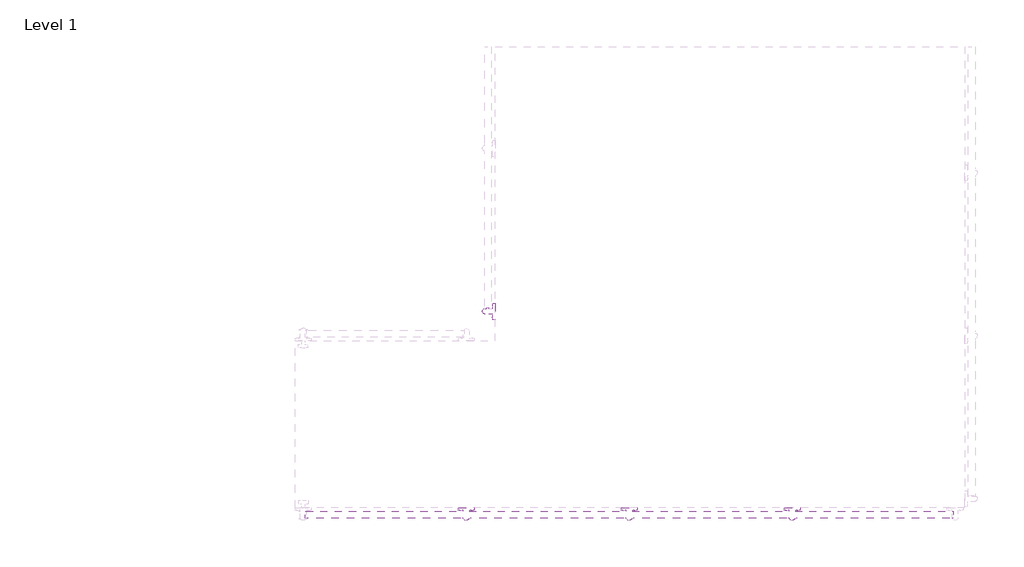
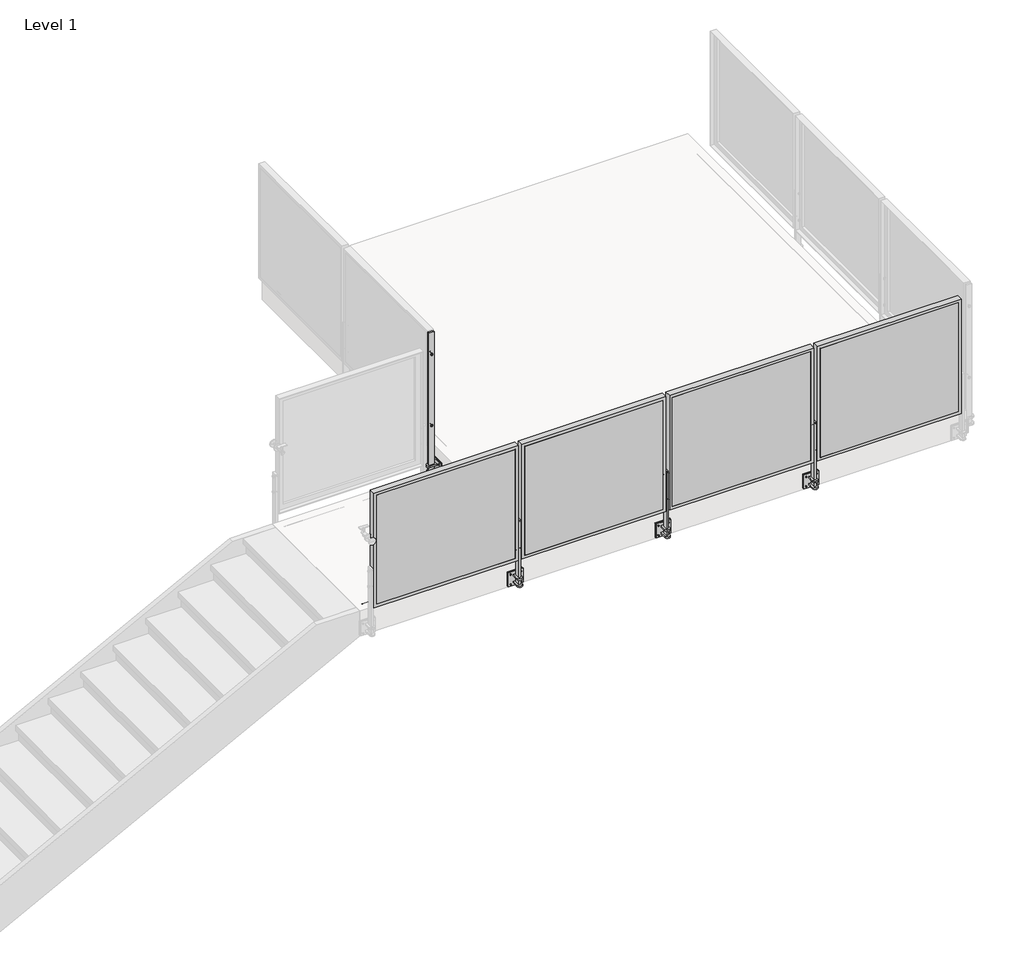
# One storey, part 19 of 37: 1 proxy, 1 railing.
"""IFC4 building model written with IfcOpenShell, lengths in millimetres."""

from ifc_helpers import new_model, si_unit, point, frame, frame_2d, origin, place, context, project, spatial, polyline, circle_curve, trimmed, segment, composite_curve, outline, extrude, faceted_brep, transform, mapped, element, save
from ifc_brep_helpers import plane_surface, cylinder_surface, advanced_brep
from components import baluster_end_post_viva_frame_top_mount_welded_fascia_mount_7cfda481

model = new_model("IFC4")

# Units and contexts
model_context = context("Model", 3, world=origin())
ifc_project = project(units=[si_unit("LENGTHUNIT", "METRE", prefix="MILLI")], contexts=[model_context])

# Site, building, storey
site = spatial("IfcSite", under=ifc_project)
building = spatial("IfcBuilding", under=site)
storey = spatial("IfcBuildingStorey", under=building, Name="Level 1", Elevation=0.0)

# Proxy
placement = place(None, origin())
baluster_end_post_viva_frame_top_mount_welded_fascia_mount_shape = baluster_end_post_viva_frame_top_mount_welded_fascia_mount_7cfda481(model_context)
element("IfcBuildingElementProxy", 1, Name="Baluster-End-Post-VIVA-FRAME-Top Mount : WELDED Fascia MOUNT FOLD_STRAIGHT", ObjectType="Baluster-End-Post-VIVA-FRAME-Top Mount : WELDED Fascia MOUNT FOLD_STRAIGHT", at=placement, inside=storey, context=model_context, shape_type="MappedRepresentation", body=[
    mapped(baluster_end_post_viva_frame_top_mount_welded_fascia_mount_shape, transform((-31448.8776401, -2383.0312725, 3047.492), x_axis=(0.0, -1.0, 0.0), y_axis=(1.0, 0.0, 0.0), z_axis=(0.0, 0.0, 1.0))),
])

# Railing
element("IfcRailing", 2, ObjectType="Metal-Panel-VIVA-FRAME-Fascia-Straight", at=placement, inside=storey, context=model_context, shape_type="SolidModel", body=[
    extrude(outline(composite_curve([segment(trimmed(circle_curve(frame_2d((-3841.0034112, 3047.746)), 0.254), [point((-3841.2574112, 3047.746))], [point((-3840.7494112, 3047.746))], False, "CARTESIAN"), True, "CONTINUOUS"), segment(trimmed(circle_curve(frame_2d((-3841.0034112, 3047.746)), 0.254), [point((-3840.7494112, 3047.746))], [point((-3841.2574112, 3047.746))], False, "CARTESIAN"), True, "CONTINUOUS")], self_intersect=False)), frame((-33016.1434339, 0.0, 0.0), z_axis=(1.0, 0.0, 0.0), x_axis=(0.0, 1.0, 0.0)), (0.0, 0.0, 1.0), 5080.0),
    extrude(outline(composite_curve([segment(trimmed(circle_curve(frame_2d((-3841.0034112, 3047.746)), 0.254), [point((-3841.2574112, 3047.746))], [point((-3840.7494112, 3047.746))], False, "CARTESIAN"), True, "CONTINUOUS"), segment(trimmed(circle_curve(frame_2d((-3841.0034112, 3047.746)), 0.254), [point((-3840.7494112, 3047.746))], [point((-3841.2574112, 3047.746))], False, "CARTESIAN"), True, "CONTINUOUS")], self_intersect=False)), frame((-33016.1434339, 0.0, 0.0), z_axis=(1.0, 0.0, 0.0), x_axis=(0.0, 1.0, 0.0)), (0.0, 0.0, 1.0), 5080.0),
    extrude(outline(polyline([(-29165.3169769, -3995.4622112), (-29165.3169769, -3992.4622112), (-27976.9698908, -3992.4622112), (-27976.9698908, -3995.4622112), (-29165.3169769, -3995.4622112)])), frame((0.0, 0.0, 3124.1959569), z_axis=(0.0, 0.0, 1.0), x_axis=(1.0, 0.0, 0.0)), (0.0, 0.0, 1.0), 990.5826861),
    faceted_brep([(-29190.7169769, -3995.4622112, 4140.1786431), (-29190.7169769, -3995.4622112, 3098.7959569), (-27951.5698908, -3995.4622112, 3098.7959569), (-27951.5698908, -3995.4622112, 4140.1786431), (-29165.3169769, -3995.4622112, 4114.7786431), (-27976.9698908, -3995.4622112, 4114.7786431), (-27976.9698908, -3995.4622112, 3124.1959569), (-29165.3169769, -3995.4622112, 3124.1959569), (-27976.9698908, -3992.4622112, 3124.1959569), (-29165.3169769, -3992.4622112, 3124.1959569), (-27976.9698908, -3992.4622112, 4114.7786431), (-29165.3169769, -3992.4622112, 4114.7786431), (-29184.7225769, -3941.6622112, 3104.7903569), (-29184.7225769, -3972.4724112, 3104.7903569), (-27957.5642908, -3972.4724112, 3104.7903569), (-27957.5642908, -3941.6622112, 3104.7903569), (-27957.5642908, -3972.4724112, 4134.1842431), (-27957.5642908, -3941.6622112, 4134.1842431), (-29184.7225769, -3941.6622112, 4134.1842431), (-29184.7225769, -3972.4724112, 4134.1842431), (-27951.5698908, -3941.6622112, 3098.7959569), (-29190.7169769, -3941.6622112, 3098.7959569), (-29190.7169769, -3941.6622112, 4140.1786431), (-27951.5698908, -3941.6622112, 4140.1786431), (-29139.9169769, -3992.4622112, 4089.3786431), (-28002.3698908, -3992.4622112, 4089.3786431), (-28002.3698908, -3992.4622112, 3149.5959569), (-29139.9169769, -3992.4622112, 3149.5959569), (-28002.3698908, -3972.4724112, 3149.5959569), (-28002.3698908, -3972.4724112, 4089.3786431), (-29139.9169769, -3972.4724112, 4089.3786431), (-29139.9169769, -3972.4724112, 3149.5959569)], [[[0, 1, 2, 3], [4, 5, 6, 7]], [[7, 6, 8, 9]], [[6, 5, 10, 8]], [[5, 4, 11, 10]], [[4, 7, 9, 11]], [[12, 13, 14, 15]], [[15, 14, 16, 17]], [[13, 12, 18, 19]], [[20, 21, 22, 23], [12, 15, 17, 18]], [[21, 1, 0, 22]], [[21, 20, 2, 1]], [[2, 20, 23, 3]], [[22, 0, 3, 23]], [[11, 9, 8, 10], [24, 25, 26, 27]], [[14, 13, 19, 16], [28, 29, 30, 31]], [[19, 18, 17, 16]], [[25, 24, 30, 29]], [[26, 25, 29, 28]], [[27, 26, 28, 31]], [[24, 27, 31, 30]]]),
    extrude(outline(composite_curve([segment(polyline([(-29228.3684339, -3989.8871179), (-29228.3684339, -3931.9862112), (-29183.9184339, -3931.9862112), (-29183.9184339, -3989.8871179)]), True, "CONTINUOUS"), segment(trimmed(circle_curve(frame_2d((-29206.1434339, -3989.8871179)), 22.225), [point((-29183.9184339, -3989.8871179))], [point((-29228.3684339, -3989.8871179))], False, "CARTESIAN"), True, "CONTINUOUS")], self_intersect=False)), frame((0.0, 0.0, 2859.0748), z_axis=(0.0, 0.0, 1.0), x_axis=(1.0, 0.0, 0.0)), (0.0, 0.0, 1.0), 12.7),
    extrude(outline(composite_curve([segment(polyline([(-29183.9184339, -3931.9862112), (-29183.9184339, -3989.8871179)]), True, "CONTINUOUS"), segment(trimmed(circle_curve(frame_2d((-29206.1434339, -3989.8871179)), 22.225), [point((-29183.9184339, -3989.8871179))], [point((-29228.3684339, -3989.8871179))], False, "CARTESIAN"), True, "CONTINUOUS"), segment(polyline([(-29228.3684339, -3989.8871179), (-29228.3684339, -3931.9862112), (-29183.9184339, -3931.9862112)]), True, "CONTINUOUS")], self_intersect=False)), frame((0.0, 0.0, 2921.0), z_axis=(0.0, 0.0, 1.0), x_axis=(1.0, 0.0, 0.0)), (0.0, 0.0, 1.0), 12.7),
    extrude(outline(composite_curve([segment(trimmed(circle_curve(frame_2d((2941.6502, -29161.698502)), 4.7752), [point((2941.6502, -29156.923302))], [point((2941.6502, -29166.473702))], False, "CARTESIAN"), True, "CONTINUOUS"), segment(trimmed(circle_curve(frame_2d((2941.6502, -29161.698502)), 4.7752), [point((2941.6502, -29166.473702))], [point((2941.6502, -29156.923302))], False, "CARTESIAN"), True, "CONTINUOUS")], self_intersect=False)), frame((0.0, -3936.7614112, 0.0), z_axis=(0.0, 1.0, 0.0), x_axis=(0.0, 0.0, 1.0)), (0.0, 0.0, 1.0), 14.3002),
    extrude(outline(composite_curve([segment(trimmed(circle_curve(frame_2d((2941.6502, -29250.5883657)), 4.7752), [point((2941.6502, -29245.8131657))], [point((2941.6502, -29255.3635657))], False, "CARTESIAN"), True, "CONTINUOUS"), segment(trimmed(circle_curve(frame_2d((2941.6502, -29250.5883657)), 4.7752), [point((2941.6502, -29255.3635657))], [point((2941.6502, -29245.8131657))], False, "CARTESIAN"), True, "CONTINUOUS")], self_intersect=False)), frame((0.0, -3936.7614112, 0.0), z_axis=(0.0, 1.0, 0.0), x_axis=(0.0, 0.0, 1.0)), (0.0, 0.0, 1.0), 14.3002),
    extrude(outline(composite_curve([segment(trimmed(circle_curve(frame_2d((2852.7502, -29250.5883657)), 4.7752), [point((2852.7502, -29245.8131657))], [point((2852.7502, -29255.3635657))], False, "CARTESIAN"), True, "CONTINUOUS"), segment(trimmed(circle_curve(frame_2d((2852.7502, -29250.5883657)), 4.7752), [point((2852.7502, -29255.3635657))], [point((2852.7502, -29245.8131657))], False, "CARTESIAN"), True, "CONTINUOUS")], self_intersect=False)), frame((0.0, -3936.7614112, 0.0), z_axis=(0.0, 1.0, 0.0), x_axis=(0.0, 0.0, 1.0)), (0.0, 0.0, 1.0), 14.3002),
    extrude(outline(composite_curve([segment(trimmed(circle_curve(frame_2d((2852.7502, -29161.698502)), 4.7752), [point((2852.7502, -29156.923302))], [point((2852.7502, -29166.473702))], False, "CARTESIAN"), True, "CONTINUOUS"), segment(trimmed(circle_curve(frame_2d((2852.7502, -29161.698502)), 4.7752), [point((2852.7502, -29166.473702))], [point((2852.7502, -29156.923302))], False, "CARTESIAN"), True, "CONTINUOUS")], self_intersect=False)), frame((0.0, -3936.7614112, 0.0), z_axis=(0.0, 1.0, 0.0), x_axis=(0.0, 0.0, 1.0)), (0.0, 0.0, 1.0), 14.3002),
    extrude(outline(polyline([(-29142.6454123, -3922.4612112), (-29269.6414554, -3922.4612112), (-29269.6414554, -3912.9362112), (-29142.6454123, -3912.9362112), (-29142.6454123, -3922.4612112)])), frame((0.0, 0.0, 2833.7002), z_axis=(0.0, 0.0, 1.0), x_axis=(1.0, 0.0, 0.0)), (0.0, 0.0, 1.0), 127.0),
    extrude(outline(polyline([(-29142.6454123, -3931.9862112), (-29269.6414554, -3931.9862112), (-29269.6414554, -3922.4612112), (-29142.6454123, -3922.4612112), (-29142.6454123, -3931.9862112)])), frame((0.0, 0.0, 2833.7002), z_axis=(0.0, 0.0, 1.0), x_axis=(1.0, 0.0, 0.0)), (0.0, 0.0, 1.0), 127.0),
    advanced_brep(
    [(-29232.3308339, -3970.0862112, 3178.1496), (-29232.3308339, -3970.0862112, 3197.2504), (-29232.3308339, -3970.0862112, 3187.7), (-29227.5556339, -3970.0862112, 3178.1496), (-29227.5556339, -3970.0862112, 3197.2504), (-29227.5556339, -3970.0862112, 3182.9248), (-29227.5556339, -3970.0862112, 3192.4752), (-29184.7312339, -3970.0862112, 3182.9248), (-29184.7312339, -3970.0862112, 3192.4752), (-29184.7312339, -3970.0862112, 3178.1496), (-29184.7312339, -3970.0862112, 3197.2504), (-29179.9560339, -3970.0862112, 3178.1496), (-29179.9560339, -3970.0862112, 3197.2504), (-29179.9560339, -3970.0862112, 3187.7)],
    [
        (0, 1, circle_curve(frame((-29232.3308339, -3970.0862112, 3187.7), z_axis=(-1.0, 0.0, 0.0), x_axis=(0.0, 0.0, 1.0)), 9.5504)),
        (1, 2),
        (2, 0),
        (1, 0, circle_curve(frame((-29232.3308339, -3970.0862112, 3187.7), z_axis=(-1.0, 0.0, 0.0), x_axis=(0.0, 0.0, 1.0)), 9.5504)),
        (3, 4, circle_curve(frame((-29227.5556339, -3970.0862112, 3187.7), z_axis=(-1.0, 0.0, 0.0), x_axis=(0.0, 0.0, 1.0)), 9.5504)),
        (4, 1),
        (0, 3),
        (4, 3, circle_curve(frame((-29227.5556339, -3970.0862112, 3187.7), z_axis=(-1.0, 0.0, 0.0), x_axis=(0.0, 0.0, 1.0)), 9.5504)),
        (5, 6, circle_curve(frame((-29227.5556339, -3970.0862112, 3187.7), z_axis=(-1.0, 0.0, 0.0), x_axis=(0.0, 0.0, 1.0)), 4.7752)),
        (6, 4),
        (3, 5),
        (6, 5, circle_curve(frame((-29227.5556339, -3970.0862112, 3187.7), z_axis=(-1.0, 0.0, 0.0), x_axis=(0.0, 0.0, 1.0)), 4.7752)),
        (7, 8, circle_curve(frame((-29184.7312339, -3970.0862112, 3187.7), z_axis=(-1.0, 0.0, 0.0), x_axis=(0.0, 0.0, 1.0)), 4.7752)),
        (8, 6),
        (5, 7),
        (8, 7, circle_curve(frame((-29184.7312339, -3970.0862112, 3187.7), z_axis=(-1.0, 0.0, 0.0), x_axis=(0.0, 0.0, 1.0)), 4.7752)),
        (9, 10, circle_curve(frame((-29184.7312339, -3970.0862112, 3187.7), z_axis=(-1.0, 0.0, 0.0), x_axis=(0.0, 0.0, 1.0)), 9.5504)),
        (10, 8),
        (7, 9),
        (10, 9, circle_curve(frame((-29184.7312339, -3970.0862112, 3187.7), z_axis=(-1.0, 0.0, 0.0), x_axis=(0.0, 0.0, 1.0)), 9.5504)),
        (11, 12, circle_curve(frame((-29179.9560339, -3970.0862112, 3187.7), z_axis=(-1.0, 0.0, 0.0), x_axis=(0.0, 0.0, 1.0)), 9.5504)),
        (12, 10),
        (9, 11),
        (12, 11, circle_curve(frame((-29179.9560339, -3970.0862112, 3187.7), z_axis=(-1.0, 0.0, 0.0), x_axis=(0.0, 0.0, 1.0)), 9.5504)),
        (13, 12),
        (11, 13),
    ],
    [
        plane_surface(frame((-29232.3308339, -3970.0862112, 3187.7), z_axis=(-1.0, 0.0, 0.0), x_axis=(0.0, 0.0, 1.0))),
        cylinder_surface(frame((-32623.911191, -3970.0862112, 3187.7), z_axis=(1.0, 0.0, 0.0), x_axis=(0.0, 0.0, 1.0)), 9.5504),
        plane_surface(frame((-29227.5556339, -3970.0862112, 3187.7), z_axis=(1.0, 0.0, 0.0), x_axis=(0.0, 0.0, 1.0))),
        cylinder_surface(frame((-32623.911191, -3970.0862112, 3187.7), z_axis=(1.0, 0.0, 0.0), x_axis=(0.0, 0.0, 1.0)), 4.7752),
        plane_surface(frame((-29184.7312339, -3970.0862112, 3187.7), z_axis=(-1.0, 0.0, 0.0), x_axis=(0.0, 0.0, 1.0))),
        plane_surface(frame((-29179.9560339, -3970.0862112, 3187.7), z_axis=(1.0, 0.0, 0.0), x_axis=(0.0, 0.0, 1.0))),
    ],
    [
        (0, [[1, 2, 3]]),
        (0, [[4, -3, -2]]),
        (1, [[5, 6, -1, 7]]),
        (1, [[8, -7, -4, -6]]),
        (2, [[9, 10, -5, 11]]),
        (2, [[12, -11, -8, -10]]),
        (3, [[13, 14, -9, 15]]),
        (3, [[16, -15, -12, -14]]),
        (4, [[17, 18, -13, 19]]),
        (4, [[20, -19, -16, -18]]),
        (1, [[21, 22, -17, 23]]),
        (1, [[24, -23, -20, -22]]),
        (5, [[25, -21, 26]]),
        (5, [[-26, -24, -25]]),
    ],
),
    advanced_brep(
    [(-29232.3308339, -3970.0862112, 3419.4496), (-29232.3308339, -3970.0862112, 3438.5504), (-29232.3308339, -3970.0862112, 3429.0), (-29227.5556339, -3970.0862112, 3419.4496), (-29227.5556339, -3970.0862112, 3438.5504), (-29227.5556339, -3970.0862112, 3424.2248), (-29227.5556339, -3970.0862112, 3433.7752), (-29184.7312339, -3970.0862112, 3424.2248), (-29184.7312339, -3970.0862112, 3433.7752), (-29184.7312339, -3970.0862112, 3419.4496), (-29184.7312339, -3970.0862112, 3438.5504), (-29179.9560339, -3970.0862112, 3419.4496), (-29179.9560339, -3970.0862112, 3438.5504), (-29179.9560339, -3970.0862112, 3429.0)],
    [
        (0, 1, circle_curve(frame((-29232.3308339, -3970.0862112, 3429.0), z_axis=(-1.0, 0.0, 0.0), x_axis=(0.0, 0.0, 1.0)), 9.5504)),
        (1, 2),
        (2, 0),
        (1, 0, circle_curve(frame((-29232.3308339, -3970.0862112, 3429.0), z_axis=(-1.0, 0.0, 0.0), x_axis=(0.0, 0.0, 1.0)), 9.5504)),
        (3, 4, circle_curve(frame((-29227.5556339, -3970.0862112, 3429.0), z_axis=(-1.0, 0.0, 0.0), x_axis=(0.0, 0.0, 1.0)), 9.5504)),
        (4, 1),
        (0, 3),
        (4, 3, circle_curve(frame((-29227.5556339, -3970.0862112, 3429.0), z_axis=(-1.0, 0.0, 0.0), x_axis=(0.0, 0.0, 1.0)), 9.5504)),
        (5, 6, circle_curve(frame((-29227.5556339, -3970.0862112, 3429.0), z_axis=(-1.0, 0.0, 0.0), x_axis=(0.0, 0.0, 1.0)), 4.7752)),
        (6, 4),
        (3, 5),
        (6, 5, circle_curve(frame((-29227.5556339, -3970.0862112, 3429.0), z_axis=(-1.0, 0.0, 0.0), x_axis=(0.0, 0.0, 1.0)), 4.7752)),
        (7, 8, circle_curve(frame((-29184.7312339, -3970.0862112, 3429.0), z_axis=(-1.0, 0.0, 0.0), x_axis=(0.0, 0.0, 1.0)), 4.7752)),
        (8, 6),
        (5, 7),
        (8, 7, circle_curve(frame((-29184.7312339, -3970.0862112, 3429.0), z_axis=(-1.0, 0.0, 0.0), x_axis=(0.0, 0.0, 1.0)), 4.7752)),
        (9, 10, circle_curve(frame((-29184.7312339, -3970.0862112, 3429.0), z_axis=(-1.0, 0.0, 0.0), x_axis=(0.0, 0.0, 1.0)), 9.5504)),
        (10, 8),
        (7, 9),
        (10, 9, circle_curve(frame((-29184.7312339, -3970.0862112, 3429.0), z_axis=(-1.0, 0.0, 0.0), x_axis=(0.0, 0.0, 1.0)), 9.5504)),
        (11, 12, circle_curve(frame((-29179.9560339, -3970.0862112, 3429.0), z_axis=(-1.0, 0.0, 0.0), x_axis=(0.0, 0.0, 1.0)), 9.5504)),
        (12, 10),
        (9, 11),
        (12, 11, circle_curve(frame((-29179.9560339, -3970.0862112, 3429.0), z_axis=(-1.0, 0.0, 0.0), x_axis=(0.0, 0.0, 1.0)), 9.5504)),
        (13, 12),
        (11, 13),
    ],
    [
        plane_surface(frame((-29232.3308339, -3970.0862112, 3429.0), z_axis=(-1.0, 0.0, 0.0), x_axis=(0.0, 0.0, 1.0))),
        cylinder_surface(frame((-32623.911191, -3970.0862112, 3429.0), z_axis=(1.0, 0.0, 0.0), x_axis=(0.0, 0.0, 1.0)), 9.5504),
        plane_surface(frame((-29227.5556339, -3970.0862112, 3429.0), z_axis=(1.0, 0.0, 0.0), x_axis=(0.0, 0.0, 1.0))),
        cylinder_surface(frame((-32623.911191, -3970.0862112, 3429.0), z_axis=(1.0, 0.0, 0.0), x_axis=(0.0, 0.0, 1.0)), 4.7752),
        plane_surface(frame((-29184.7312339, -3970.0862112, 3429.0), z_axis=(-1.0, 0.0, 0.0), x_axis=(0.0, 0.0, 1.0))),
        plane_surface(frame((-29179.9560339, -3970.0862112, 3429.0), z_axis=(1.0, 0.0, 0.0), x_axis=(0.0, 0.0, 1.0))),
    ],
    [
        (0, [[1, 2, 3]]),
        (0, [[4, -3, -2]]),
        (1, [[5, 6, -1, 7]]),
        (1, [[8, -7, -4, -6]]),
        (2, [[9, 10, -5, 11]]),
        (2, [[12, -11, -8, -10]]),
        (3, [[13, 14, -9, 15]]),
        (3, [[16, -15, -12, -14]]),
        (4, [[17, 18, -13, 19]]),
        (4, [[20, -19, -16, -18]]),
        (1, [[21, 22, -17, 23]]),
        (1, [[24, -23, -20, -22]]),
        (5, [[25, -21, 26]]),
        (5, [[-26, -24, -25]]),
    ],
),
    extrude(outline(polyline([(-29214.0830255, -3947.8612112), (-29198.2038422, -3947.8612112), (-29198.2038422, -3992.3112112), (-29214.0830255, -3992.3112112), (-29214.0830255, -3947.8612112)])), frame((0.0, 0.0, 2865.4248), z_axis=(0.0, 0.0, 1.0), x_axis=(1.0, 0.0, 0.0)), (0.0, 0.0, 1.0), 588.9752),
    extrude(outline(polyline([(-30435.3169769, -3995.4622112), (-30435.3169769, -3992.4622112), (-29246.9698908, -3992.4622112), (-29246.9698908, -3995.4622112), (-30435.3169769, -3995.4622112)])), frame((0.0, 0.0, 3124.1959569), z_axis=(0.0, 0.0, 1.0), x_axis=(1.0, 0.0, 0.0)), (0.0, 0.0, 1.0), 990.5826861),
    faceted_brep([(-30460.7169769, -3995.4622112, 4140.1786431), (-30460.7169769, -3995.4622112, 3098.7959569), (-29221.5698908, -3995.4622112, 3098.7959569), (-29221.5698908, -3995.4622112, 4140.1786431), (-30435.3169769, -3995.4622112, 4114.7786431), (-29246.9698908, -3995.4622112, 4114.7786431), (-29246.9698908, -3995.4622112, 3124.1959569), (-30435.3169769, -3995.4622112, 3124.1959569), (-29246.9698908, -3992.4622112, 3124.1959569), (-30435.3169769, -3992.4622112, 3124.1959569), (-29246.9698908, -3992.4622112, 4114.7786431), (-30435.3169769, -3992.4622112, 4114.7786431), (-30454.7225769, -3941.6622112, 3104.7903569), (-30454.7225769, -3972.4724112, 3104.7903569), (-29227.5642908, -3972.4724112, 3104.7903569), (-29227.5642908, -3941.6622112, 3104.7903569), (-29227.5642908, -3972.4724112, 4134.1842431), (-29227.5642908, -3941.6622112, 4134.1842431), (-30454.7225769, -3941.6622112, 4134.1842431), (-30454.7225769, -3972.4724112, 4134.1842431), (-29221.5698908, -3941.6622112, 3098.7959569), (-30460.7169769, -3941.6622112, 3098.7959569), (-30460.7169769, -3941.6622112, 4140.1786431), (-29221.5698908, -3941.6622112, 4140.1786431), (-30409.9169769, -3992.4622112, 4089.3786431), (-29272.3698908, -3992.4622112, 4089.3786431), (-29272.3698908, -3992.4622112, 3149.5959569), (-30409.9169769, -3992.4622112, 3149.5959569), (-29272.3698908, -3972.4724112, 3149.5959569), (-29272.3698908, -3972.4724112, 4089.3786431), (-30409.9169769, -3972.4724112, 4089.3786431), (-30409.9169769, -3972.4724112, 3149.5959569)], [[[0, 1, 2, 3], [4, 5, 6, 7]], [[7, 6, 8, 9]], [[6, 5, 10, 8]], [[5, 4, 11, 10]], [[4, 7, 9, 11]], [[12, 13, 14, 15]], [[15, 14, 16, 17]], [[13, 12, 18, 19]], [[20, 21, 22, 23], [12, 15, 17, 18]], [[21, 1, 0, 22]], [[21, 20, 2, 1]], [[2, 20, 23, 3]], [[22, 0, 3, 23]], [[11, 9, 8, 10], [24, 25, 26, 27]], [[14, 13, 19, 16], [28, 29, 30, 31]], [[19, 18, 17, 16]], [[25, 24, 30, 29]], [[26, 25, 29, 28]], [[27, 26, 28, 31]], [[24, 27, 31, 30]]]),
    extrude(outline(composite_curve([segment(polyline([(-30498.3684339, -3989.8871179), (-30498.3684339, -3931.9862112), (-30453.9184339, -3931.9862112), (-30453.9184339, -3989.8871179)]), True, "CONTINUOUS"), segment(trimmed(circle_curve(frame_2d((-30476.1434339, -3989.8871179)), 22.225), [point((-30453.9184339, -3989.8871179))], [point((-30498.3684339, -3989.8871179))], False, "CARTESIAN"), True, "CONTINUOUS")], self_intersect=False)), frame((0.0, 0.0, 2859.0748), z_axis=(0.0, 0.0, 1.0), x_axis=(1.0, 0.0, 0.0)), (0.0, 0.0, 1.0), 12.7),
    extrude(outline(composite_curve([segment(polyline([(-30453.9184339, -3931.9862112), (-30453.9184339, -3989.8871179)]), True, "CONTINUOUS"), segment(trimmed(circle_curve(frame_2d((-30476.1434339, -3989.8871179)), 22.225), [point((-30453.9184339, -3989.8871179))], [point((-30498.3684339, -3989.8871179))], False, "CARTESIAN"), True, "CONTINUOUS"), segment(polyline([(-30498.3684339, -3989.8871179), (-30498.3684339, -3931.9862112), (-30453.9184339, -3931.9862112)]), True, "CONTINUOUS")], self_intersect=False)), frame((0.0, 0.0, 2921.0), z_axis=(0.0, 0.0, 1.0), x_axis=(1.0, 0.0, 0.0)), (0.0, 0.0, 1.0), 12.7),
    extrude(outline(composite_curve([segment(trimmed(circle_curve(frame_2d((2941.6502, -30431.698502)), 4.7752), [point((2941.6502, -30426.923302))], [point((2941.6502, -30436.473702))], False, "CARTESIAN"), True, "CONTINUOUS"), segment(trimmed(circle_curve(frame_2d((2941.6502, -30431.698502)), 4.7752), [point((2941.6502, -30436.473702))], [point((2941.6502, -30426.923302))], False, "CARTESIAN"), True, "CONTINUOUS")], self_intersect=False)), frame((0.0, -3936.7614112, 0.0), z_axis=(0.0, 1.0, 0.0), x_axis=(0.0, 0.0, 1.0)), (0.0, 0.0, 1.0), 14.3002),
    extrude(outline(composite_curve([segment(trimmed(circle_curve(frame_2d((2941.6502, -30520.5883657)), 4.7752), [point((2941.6502, -30515.8131657))], [point((2941.6502, -30525.3635657))], False, "CARTESIAN"), True, "CONTINUOUS"), segment(trimmed(circle_curve(frame_2d((2941.6502, -30520.5883657)), 4.7752), [point((2941.6502, -30525.3635657))], [point((2941.6502, -30515.8131657))], False, "CARTESIAN"), True, "CONTINUOUS")], self_intersect=False)), frame((0.0, -3936.7614112, 0.0), z_axis=(0.0, 1.0, 0.0), x_axis=(0.0, 0.0, 1.0)), (0.0, 0.0, 1.0), 14.3002),
    extrude(outline(composite_curve([segment(trimmed(circle_curve(frame_2d((2852.7502, -30520.5883657)), 4.7752), [point((2852.7502, -30515.8131657))], [point((2852.7502, -30525.3635657))], False, "CARTESIAN"), True, "CONTINUOUS"), segment(trimmed(circle_curve(frame_2d((2852.7502, -30520.5883657)), 4.7752), [point((2852.7502, -30525.3635657))], [point((2852.7502, -30515.8131657))], False, "CARTESIAN"), True, "CONTINUOUS")], self_intersect=False)), frame((0.0, -3936.7614112, 0.0), z_axis=(0.0, 1.0, 0.0), x_axis=(0.0, 0.0, 1.0)), (0.0, 0.0, 1.0), 14.3002),
    extrude(outline(composite_curve([segment(trimmed(circle_curve(frame_2d((2852.7502, -30431.698502)), 4.7752), [point((2852.7502, -30426.923302))], [point((2852.7502, -30436.473702))], False, "CARTESIAN"), True, "CONTINUOUS"), segment(trimmed(circle_curve(frame_2d((2852.7502, -30431.698502)), 4.7752), [point((2852.7502, -30436.473702))], [point((2852.7502, -30426.923302))], False, "CARTESIAN"), True, "CONTINUOUS")], self_intersect=False)), frame((0.0, -3936.7614112, 0.0), z_axis=(0.0, 1.0, 0.0), x_axis=(0.0, 0.0, 1.0)), (0.0, 0.0, 1.0), 14.3002),
    extrude(outline(polyline([(-30412.6454123, -3922.4612112), (-30539.6414554, -3922.4612112), (-30539.6414554, -3912.9362112), (-30412.6454123, -3912.9362112), (-30412.6454123, -3922.4612112)])), frame((0.0, 0.0, 2833.7002), z_axis=(0.0, 0.0, 1.0), x_axis=(1.0, 0.0, 0.0)), (0.0, 0.0, 1.0), 127.0),
    extrude(outline(polyline([(-30412.6454123, -3931.9862112), (-30539.6414554, -3931.9862112), (-30539.6414554, -3922.4612112), (-30412.6454123, -3922.4612112), (-30412.6454123, -3931.9862112)])), frame((0.0, 0.0, 2833.7002), z_axis=(0.0, 0.0, 1.0), x_axis=(1.0, 0.0, 0.0)), (0.0, 0.0, 1.0), 127.0),
    advanced_brep(
    [(-30502.3308339, -3970.0862112, 3178.1496), (-30502.3308339, -3970.0862112, 3197.2504), (-30502.3308339, -3970.0862112, 3187.7), (-30497.5556339, -3970.0862112, 3178.1496), (-30497.5556339, -3970.0862112, 3197.2504), (-30497.5556339, -3970.0862112, 3182.9248), (-30497.5556339, -3970.0862112, 3192.4752), (-30454.7312339, -3970.0862112, 3182.9248), (-30454.7312339, -3970.0862112, 3192.4752), (-30454.7312339, -3970.0862112, 3178.1496), (-30454.7312339, -3970.0862112, 3197.2504), (-30449.9560339, -3970.0862112, 3178.1496), (-30449.9560339, -3970.0862112, 3197.2504), (-30449.9560339, -3970.0862112, 3187.7)],
    [
        (0, 1, circle_curve(frame((-30502.3308339, -3970.0862112, 3187.7), z_axis=(-1.0, 0.0, 0.0), x_axis=(0.0, 0.0, 1.0)), 9.5504)),
        (1, 2),
        (2, 0),
        (1, 0, circle_curve(frame((-30502.3308339, -3970.0862112, 3187.7), z_axis=(-1.0, 0.0, 0.0), x_axis=(0.0, 0.0, 1.0)), 9.5504)),
        (3, 4, circle_curve(frame((-30497.5556339, -3970.0862112, 3187.7), z_axis=(-1.0, 0.0, 0.0), x_axis=(0.0, 0.0, 1.0)), 9.5504)),
        (4, 1),
        (0, 3),
        (4, 3, circle_curve(frame((-30497.5556339, -3970.0862112, 3187.7), z_axis=(-1.0, 0.0, 0.0), x_axis=(0.0, 0.0, 1.0)), 9.5504)),
        (5, 6, circle_curve(frame((-30497.5556339, -3970.0862112, 3187.7), z_axis=(-1.0, 0.0, 0.0), x_axis=(0.0, 0.0, 1.0)), 4.7752)),
        (6, 4),
        (3, 5),
        (6, 5, circle_curve(frame((-30497.5556339, -3970.0862112, 3187.7), z_axis=(-1.0, 0.0, 0.0), x_axis=(0.0, 0.0, 1.0)), 4.7752)),
        (7, 8, circle_curve(frame((-30454.7312339, -3970.0862112, 3187.7), z_axis=(-1.0, 0.0, 0.0), x_axis=(0.0, 0.0, 1.0)), 4.7752)),
        (8, 6),
        (5, 7),
        (8, 7, circle_curve(frame((-30454.7312339, -3970.0862112, 3187.7), z_axis=(-1.0, 0.0, 0.0), x_axis=(0.0, 0.0, 1.0)), 4.7752)),
        (9, 10, circle_curve(frame((-30454.7312339, -3970.0862112, 3187.7), z_axis=(-1.0, 0.0, 0.0), x_axis=(0.0, 0.0, 1.0)), 9.5504)),
        (10, 8),
        (7, 9),
        (10, 9, circle_curve(frame((-30454.7312339, -3970.0862112, 3187.7), z_axis=(-1.0, 0.0, 0.0), x_axis=(0.0, 0.0, 1.0)), 9.5504)),
        (11, 12, circle_curve(frame((-30449.9560339, -3970.0862112, 3187.7), z_axis=(-1.0, 0.0, 0.0), x_axis=(0.0, 0.0, 1.0)), 9.5504)),
        (12, 10),
        (9, 11),
        (12, 11, circle_curve(frame((-30449.9560339, -3970.0862112, 3187.7), z_axis=(-1.0, 0.0, 0.0), x_axis=(0.0, 0.0, 1.0)), 9.5504)),
        (13, 12),
        (11, 13),
    ],
    [
        plane_surface(frame((-30502.3308339, -3970.0862112, 3187.7), z_axis=(-1.0, 0.0, 0.0), x_axis=(0.0, 0.0, 1.0))),
        cylinder_surface(frame((-33893.911191, -3970.0862112, 3187.7), z_axis=(1.0, 0.0, 0.0), x_axis=(0.0, 0.0, 1.0)), 9.5504),
        plane_surface(frame((-30497.5556339, -3970.0862112, 3187.7), z_axis=(1.0, 0.0, 0.0), x_axis=(0.0, 0.0, 1.0))),
        cylinder_surface(frame((-33893.911191, -3970.0862112, 3187.7), z_axis=(1.0, 0.0, 0.0), x_axis=(0.0, 0.0, 1.0)), 4.7752),
        plane_surface(frame((-30454.7312339, -3970.0862112, 3187.7), z_axis=(-1.0, 0.0, 0.0), x_axis=(0.0, 0.0, 1.0))),
        plane_surface(frame((-30449.9560339, -3970.0862112, 3187.7), z_axis=(1.0, 0.0, 0.0), x_axis=(0.0, 0.0, 1.0))),
    ],
    [
        (0, [[1, 2, 3]]),
        (0, [[4, -3, -2]]),
        (1, [[5, 6, -1, 7]]),
        (1, [[8, -7, -4, -6]]),
        (2, [[9, 10, -5, 11]]),
        (2, [[12, -11, -8, -10]]),
        (3, [[13, 14, -9, 15]]),
        (3, [[16, -15, -12, -14]]),
        (4, [[17, 18, -13, 19]]),
        (4, [[20, -19, -16, -18]]),
        (1, [[21, 22, -17, 23]]),
        (1, [[24, -23, -20, -22]]),
        (5, [[25, -21, 26]]),
        (5, [[-26, -24, -25]]),
    ],
),
    advanced_brep(
    [(-30502.3308339, -3970.0862112, 3419.4496), (-30502.3308339, -3970.0862112, 3438.5504), (-30502.3308339, -3970.0862112, 3429.0), (-30497.5556339, -3970.0862112, 3419.4496), (-30497.5556339, -3970.0862112, 3438.5504), (-30497.5556339, -3970.0862112, 3424.2248), (-30497.5556339, -3970.0862112, 3433.7752), (-30454.7312339, -3970.0862112, 3424.2248), (-30454.7312339, -3970.0862112, 3433.7752), (-30454.7312339, -3970.0862112, 3419.4496), (-30454.7312339, -3970.0862112, 3438.5504), (-30449.9560339, -3970.0862112, 3419.4496), (-30449.9560339, -3970.0862112, 3438.5504), (-30449.9560339, -3970.0862112, 3429.0)],
    [
        (0, 1, circle_curve(frame((-30502.3308339, -3970.0862112, 3429.0), z_axis=(-1.0, 0.0, 0.0), x_axis=(0.0, 0.0, 1.0)), 9.5504)),
        (1, 2),
        (2, 0),
        (1, 0, circle_curve(frame((-30502.3308339, -3970.0862112, 3429.0), z_axis=(-1.0, 0.0, 0.0), x_axis=(0.0, 0.0, 1.0)), 9.5504)),
        (3, 4, circle_curve(frame((-30497.5556339, -3970.0862112, 3429.0), z_axis=(-1.0, 0.0, 0.0), x_axis=(0.0, 0.0, 1.0)), 9.5504)),
        (4, 1),
        (0, 3),
        (4, 3, circle_curve(frame((-30497.5556339, -3970.0862112, 3429.0), z_axis=(-1.0, 0.0, 0.0), x_axis=(0.0, 0.0, 1.0)), 9.5504)),
        (5, 6, circle_curve(frame((-30497.5556339, -3970.0862112, 3429.0), z_axis=(-1.0, 0.0, 0.0), x_axis=(0.0, 0.0, 1.0)), 4.7752)),
        (6, 4),
        (3, 5),
        (6, 5, circle_curve(frame((-30497.5556339, -3970.0862112, 3429.0), z_axis=(-1.0, 0.0, 0.0), x_axis=(0.0, 0.0, 1.0)), 4.7752)),
        (7, 8, circle_curve(frame((-30454.7312339, -3970.0862112, 3429.0), z_axis=(-1.0, 0.0, 0.0), x_axis=(0.0, 0.0, 1.0)), 4.7752)),
        (8, 6),
        (5, 7),
        (8, 7, circle_curve(frame((-30454.7312339, -3970.0862112, 3429.0), z_axis=(-1.0, 0.0, 0.0), x_axis=(0.0, 0.0, 1.0)), 4.7752)),
        (9, 10, circle_curve(frame((-30454.7312339, -3970.0862112, 3429.0), z_axis=(-1.0, 0.0, 0.0), x_axis=(0.0, 0.0, 1.0)), 9.5504)),
        (10, 8),
        (7, 9),
        (10, 9, circle_curve(frame((-30454.7312339, -3970.0862112, 3429.0), z_axis=(-1.0, 0.0, 0.0), x_axis=(0.0, 0.0, 1.0)), 9.5504)),
        (11, 12, circle_curve(frame((-30449.9560339, -3970.0862112, 3429.0), z_axis=(-1.0, 0.0, 0.0), x_axis=(0.0, 0.0, 1.0)), 9.5504)),
        (12, 10),
        (9, 11),
        (12, 11, circle_curve(frame((-30449.9560339, -3970.0862112, 3429.0), z_axis=(-1.0, 0.0, 0.0), x_axis=(0.0, 0.0, 1.0)), 9.5504)),
        (13, 12),
        (11, 13),
    ],
    [
        plane_surface(frame((-30502.3308339, -3970.0862112, 3429.0), z_axis=(-1.0, 0.0, 0.0), x_axis=(0.0, 0.0, 1.0))),
        cylinder_surface(frame((-33893.911191, -3970.0862112, 3429.0), z_axis=(1.0, 0.0, 0.0), x_axis=(0.0, 0.0, 1.0)), 9.5504),
        plane_surface(frame((-30497.5556339, -3970.0862112, 3429.0), z_axis=(1.0, 0.0, 0.0), x_axis=(0.0, 0.0, 1.0))),
        cylinder_surface(frame((-33893.911191, -3970.0862112, 3429.0), z_axis=(1.0, 0.0, 0.0), x_axis=(0.0, 0.0, 1.0)), 4.7752),
        plane_surface(frame((-30454.7312339, -3970.0862112, 3429.0), z_axis=(-1.0, 0.0, 0.0), x_axis=(0.0, 0.0, 1.0))),
        plane_surface(frame((-30449.9560339, -3970.0862112, 3429.0), z_axis=(1.0, 0.0, 0.0), x_axis=(0.0, 0.0, 1.0))),
    ],
    [
        (0, [[1, 2, 3]]),
        (0, [[4, -3, -2]]),
        (1, [[5, 6, -1, 7]]),
        (1, [[8, -7, -4, -6]]),
        (2, [[9, 10, -5, 11]]),
        (2, [[12, -11, -8, -10]]),
        (3, [[13, 14, -9, 15]]),
        (3, [[16, -15, -12, -14]]),
        (4, [[17, 18, -13, 19]]),
        (4, [[20, -19, -16, -18]]),
        (1, [[21, 22, -17, 23]]),
        (1, [[24, -23, -20, -22]]),
        (5, [[25, -21, 26]]),
        (5, [[-26, -24, -25]]),
    ],
),
    extrude(outline(polyline([(-30484.0830255, -3947.8612112), (-30468.2038422, -3947.8612112), (-30468.2038422, -3992.3112112), (-30484.0830255, -3992.3112112), (-30484.0830255, -3947.8612112)])), frame((0.0, 0.0, 2865.4248), z_axis=(0.0, 0.0, 1.0), x_axis=(1.0, 0.0, 0.0)), (0.0, 0.0, 1.0), 588.9752),
    extrude(outline(polyline([(-31705.3169769, -3995.4622112), (-31705.3169769, -3992.4622112), (-30516.9698908, -3992.4622112), (-30516.9698908, -3995.4622112), (-31705.3169769, -3995.4622112)])), frame((0.0, 0.0, 3124.1959569), z_axis=(0.0, 0.0, 1.0), x_axis=(1.0, 0.0, 0.0)), (0.0, 0.0, 1.0), 990.5826861),
    faceted_brep([(-31730.7169769, -3995.4622112, 4140.1786431), (-31730.7169769, -3995.4622112, 3098.7959569), (-30491.5698908, -3995.4622112, 3098.7959569), (-30491.5698908, -3995.4622112, 4140.1786431), (-31705.3169769, -3995.4622112, 4114.7786431), (-30516.9698908, -3995.4622112, 4114.7786431), (-30516.9698908, -3995.4622112, 3124.1959569), (-31705.3169769, -3995.4622112, 3124.1959569), (-30516.9698908, -3992.4622112, 3124.1959569), (-31705.3169769, -3992.4622112, 3124.1959569), (-30516.9698908, -3992.4622112, 4114.7786431), (-31705.3169769, -3992.4622112, 4114.7786431), (-31724.7225769, -3941.6622112, 3104.7903569), (-31724.7225769, -3972.4724112, 3104.7903569), (-30497.5642908, -3972.4724112, 3104.7903569), (-30497.5642908, -3941.6622112, 3104.7903569), (-30497.5642908, -3972.4724112, 4134.1842431), (-30497.5642908, -3941.6622112, 4134.1842431), (-31724.7225769, -3941.6622112, 4134.1842431), (-31724.7225769, -3972.4724112, 4134.1842431), (-30491.5698908, -3941.6622112, 3098.7959569), (-31730.7169769, -3941.6622112, 3098.7959569), (-31730.7169769, -3941.6622112, 4140.1786431), (-30491.5698908, -3941.6622112, 4140.1786431), (-31679.9169769, -3992.4622112, 4089.3786431), (-30542.3698908, -3992.4622112, 4089.3786431), (-30542.3698908, -3992.4622112, 3149.5959569), (-31679.9169769, -3992.4622112, 3149.5959569), (-30542.3698908, -3972.4724112, 3149.5959569), (-30542.3698908, -3972.4724112, 4089.3786431), (-31679.9169769, -3972.4724112, 4089.3786431), (-31679.9169769, -3972.4724112, 3149.5959569)], [[[0, 1, 2, 3], [4, 5, 6, 7]], [[7, 6, 8, 9]], [[6, 5, 10, 8]], [[5, 4, 11, 10]], [[4, 7, 9, 11]], [[12, 13, 14, 15]], [[15, 14, 16, 17]], [[13, 12, 18, 19]], [[20, 21, 22, 23], [12, 15, 17, 18]], [[21, 1, 0, 22]], [[21, 20, 2, 1]], [[2, 20, 23, 3]], [[22, 0, 3, 23]], [[11, 9, 8, 10], [24, 25, 26, 27]], [[14, 13, 19, 16], [28, 29, 30, 31]], [[19, 18, 17, 16]], [[25, 24, 30, 29]], [[26, 25, 29, 28]], [[27, 26, 28, 31]], [[24, 27, 31, 30]]]),
    extrude(outline(composite_curve([segment(polyline([(-31768.3684339, -3989.8871179), (-31768.3684339, -3931.9862112), (-31723.9184339, -3931.9862112), (-31723.9184339, -3989.8871179)]), True, "CONTINUOUS"), segment(trimmed(circle_curve(frame_2d((-31746.1434339, -3989.8871179)), 22.225), [point((-31723.9184339, -3989.8871179))], [point((-31768.3684339, -3989.8871179))], False, "CARTESIAN"), True, "CONTINUOUS")], self_intersect=False)), frame((0.0, 0.0, 2859.0748), z_axis=(0.0, 0.0, 1.0), x_axis=(1.0, 0.0, 0.0)), (0.0, 0.0, 1.0), 12.7),
    extrude(outline(composite_curve([segment(polyline([(-31723.9184339, -3931.9862112), (-31723.9184339, -3989.8871179)]), True, "CONTINUOUS"), segment(trimmed(circle_curve(frame_2d((-31746.1434339, -3989.8871179)), 22.225), [point((-31723.9184339, -3989.8871179))], [point((-31768.3684339, -3989.8871179))], False, "CARTESIAN"), True, "CONTINUOUS"), segment(polyline([(-31768.3684339, -3989.8871179), (-31768.3684339, -3931.9862112), (-31723.9184339, -3931.9862112)]), True, "CONTINUOUS")], self_intersect=False)), frame((0.0, 0.0, 2921.0), z_axis=(0.0, 0.0, 1.0), x_axis=(1.0, 0.0, 0.0)), (0.0, 0.0, 1.0), 12.7),
    extrude(outline(composite_curve([segment(trimmed(circle_curve(frame_2d((2941.6502, -31701.698502)), 4.7752), [point((2941.6502, -31696.923302))], [point((2941.6502, -31706.473702))], False, "CARTESIAN"), True, "CONTINUOUS"), segment(trimmed(circle_curve(frame_2d((2941.6502, -31701.698502)), 4.7752), [point((2941.6502, -31706.473702))], [point((2941.6502, -31696.923302))], False, "CARTESIAN"), True, "CONTINUOUS")], self_intersect=False)), frame((0.0, -3936.7614112, 0.0), z_axis=(0.0, 1.0, 0.0), x_axis=(0.0, 0.0, 1.0)), (0.0, 0.0, 1.0), 14.3002),
    extrude(outline(composite_curve([segment(trimmed(circle_curve(frame_2d((2941.6502, -31790.5883657)), 4.7752), [point((2941.6502, -31785.8131657))], [point((2941.6502, -31795.3635657))], False, "CARTESIAN"), True, "CONTINUOUS"), segment(trimmed(circle_curve(frame_2d((2941.6502, -31790.5883657)), 4.7752), [point((2941.6502, -31795.3635657))], [point((2941.6502, -31785.8131657))], False, "CARTESIAN"), True, "CONTINUOUS")], self_intersect=False)), frame((0.0, -3936.7614112, 0.0), z_axis=(0.0, 1.0, 0.0), x_axis=(0.0, 0.0, 1.0)), (0.0, 0.0, 1.0), 14.3002),
    extrude(outline(composite_curve([segment(trimmed(circle_curve(frame_2d((2852.7502, -31790.5883657)), 4.7752), [point((2852.7502, -31785.8131657))], [point((2852.7502, -31795.3635657))], False, "CARTESIAN"), True, "CONTINUOUS"), segment(trimmed(circle_curve(frame_2d((2852.7502, -31790.5883657)), 4.7752), [point((2852.7502, -31795.3635657))], [point((2852.7502, -31785.8131657))], False, "CARTESIAN"), True, "CONTINUOUS")], self_intersect=False)), frame((0.0, -3936.7614112, 0.0), z_axis=(0.0, 1.0, 0.0), x_axis=(0.0, 0.0, 1.0)), (0.0, 0.0, 1.0), 14.3002),
    extrude(outline(composite_curve([segment(trimmed(circle_curve(frame_2d((2852.7502, -31701.698502)), 4.7752), [point((2852.7502, -31696.923302))], [point((2852.7502, -31706.473702))], False, "CARTESIAN"), True, "CONTINUOUS"), segment(trimmed(circle_curve(frame_2d((2852.7502, -31701.698502)), 4.7752), [point((2852.7502, -31706.473702))], [point((2852.7502, -31696.923302))], False, "CARTESIAN"), True, "CONTINUOUS")], self_intersect=False)), frame((0.0, -3936.7614112, 0.0), z_axis=(0.0, 1.0, 0.0), x_axis=(0.0, 0.0, 1.0)), (0.0, 0.0, 1.0), 14.3002),
    extrude(outline(polyline([(-31682.6454123, -3922.4612112), (-31809.6414554, -3922.4612112), (-31809.6414554, -3912.9362112), (-31682.6454123, -3912.9362112), (-31682.6454123, -3922.4612112)])), frame((0.0, 0.0, 2833.7002), z_axis=(0.0, 0.0, 1.0), x_axis=(1.0, 0.0, 0.0)), (0.0, 0.0, 1.0), 127.0),
    extrude(outline(polyline([(-31682.6454123, -3931.9862112), (-31809.6414554, -3931.9862112), (-31809.6414554, -3922.4612112), (-31682.6454123, -3922.4612112), (-31682.6454123, -3931.9862112)])), frame((0.0, 0.0, 2833.7002), z_axis=(0.0, 0.0, 1.0), x_axis=(1.0, 0.0, 0.0)), (0.0, 0.0, 1.0), 127.0),
    advanced_brep(
    [(-31772.3308339, -3970.0862112, 3178.1496), (-31772.3308339, -3970.0862112, 3197.2504), (-31772.3308339, -3970.0862112, 3187.7), (-31767.5556339, -3970.0862112, 3178.1496), (-31767.5556339, -3970.0862112, 3197.2504), (-31767.5556339, -3970.0862112, 3182.9248), (-31767.5556339, -3970.0862112, 3192.4752), (-31724.7312339, -3970.0862112, 3182.9248), (-31724.7312339, -3970.0862112, 3192.4752), (-31724.7312339, -3970.0862112, 3178.1496), (-31724.7312339, -3970.0862112, 3197.2504), (-31719.9560339, -3970.0862112, 3178.1496), (-31719.9560339, -3970.0862112, 3197.2504), (-31719.9560339, -3970.0862112, 3187.7)],
    [
        (0, 1, circle_curve(frame((-31772.3308339, -3970.0862112, 3187.7), z_axis=(-1.0, 0.0, 0.0), x_axis=(0.0, 0.0, 1.0)), 9.5504)),
        (1, 2),
        (2, 0),
        (1, 0, circle_curve(frame((-31772.3308339, -3970.0862112, 3187.7), z_axis=(-1.0, 0.0, 0.0), x_axis=(0.0, 0.0, 1.0)), 9.5504)),
        (3, 4, circle_curve(frame((-31767.5556339, -3970.0862112, 3187.7), z_axis=(-1.0, 0.0, 0.0), x_axis=(0.0, 0.0, 1.0)), 9.5504)),
        (4, 1),
        (0, 3),
        (4, 3, circle_curve(frame((-31767.5556339, -3970.0862112, 3187.7), z_axis=(-1.0, 0.0, 0.0), x_axis=(0.0, 0.0, 1.0)), 9.5504)),
        (5, 6, circle_curve(frame((-31767.5556339, -3970.0862112, 3187.7), z_axis=(-1.0, 0.0, 0.0), x_axis=(0.0, 0.0, 1.0)), 4.7752)),
        (6, 4),
        (3, 5),
        (6, 5, circle_curve(frame((-31767.5556339, -3970.0862112, 3187.7), z_axis=(-1.0, 0.0, 0.0), x_axis=(0.0, 0.0, 1.0)), 4.7752)),
        (7, 8, circle_curve(frame((-31724.7312339, -3970.0862112, 3187.7), z_axis=(-1.0, 0.0, 0.0), x_axis=(0.0, 0.0, 1.0)), 4.7752)),
        (8, 6),
        (5, 7),
        (8, 7, circle_curve(frame((-31724.7312339, -3970.0862112, 3187.7), z_axis=(-1.0, 0.0, 0.0), x_axis=(0.0, 0.0, 1.0)), 4.7752)),
        (9, 10, circle_curve(frame((-31724.7312339, -3970.0862112, 3187.7), z_axis=(-1.0, 0.0, 0.0), x_axis=(0.0, 0.0, 1.0)), 9.5504)),
        (10, 8),
        (7, 9),
        (10, 9, circle_curve(frame((-31724.7312339, -3970.0862112, 3187.7), z_axis=(-1.0, 0.0, 0.0), x_axis=(0.0, 0.0, 1.0)), 9.5504)),
        (11, 12, circle_curve(frame((-31719.9560339, -3970.0862112, 3187.7), z_axis=(-1.0, 0.0, 0.0), x_axis=(0.0, 0.0, 1.0)), 9.5504)),
        (12, 10),
        (9, 11),
        (12, 11, circle_curve(frame((-31719.9560339, -3970.0862112, 3187.7), z_axis=(-1.0, 0.0, 0.0), x_axis=(0.0, 0.0, 1.0)), 9.5504)),
        (13, 12),
        (11, 13),
    ],
    [
        plane_surface(frame((-31772.3308339, -3970.0862112, 3187.7), z_axis=(-1.0, 0.0, 0.0), x_axis=(0.0, 0.0, 1.0))),
        cylinder_surface(frame((-35163.911191, -3970.0862112, 3187.7), z_axis=(1.0, 0.0, 0.0), x_axis=(0.0, 0.0, 1.0)), 9.5504),
        plane_surface(frame((-31767.5556339, -3970.0862112, 3187.7), z_axis=(1.0, 0.0, 0.0), x_axis=(0.0, 0.0, 1.0))),
        cylinder_surface(frame((-35163.911191, -3970.0862112, 3187.7), z_axis=(1.0, 0.0, 0.0), x_axis=(0.0, 0.0, 1.0)), 4.7752),
        plane_surface(frame((-31724.7312339, -3970.0862112, 3187.7), z_axis=(-1.0, 0.0, 0.0), x_axis=(0.0, 0.0, 1.0))),
        plane_surface(frame((-31719.9560339, -3970.0862112, 3187.7), z_axis=(1.0, 0.0, 0.0), x_axis=(0.0, 0.0, 1.0))),
    ],
    [
        (0, [[1, 2, 3]]),
        (0, [[4, -3, -2]]),
        (1, [[5, 6, -1, 7]]),
        (1, [[8, -7, -4, -6]]),
        (2, [[9, 10, -5, 11]]),
        (2, [[12, -11, -8, -10]]),
        (3, [[13, 14, -9, 15]]),
        (3, [[16, -15, -12, -14]]),
        (4, [[17, 18, -13, 19]]),
        (4, [[20, -19, -16, -18]]),
        (1, [[21, 22, -17, 23]]),
        (1, [[24, -23, -20, -22]]),
        (5, [[25, -21, 26]]),
        (5, [[-26, -24, -25]]),
    ],
),
    advanced_brep(
    [(-31772.3308339, -3970.0862112, 3419.4496), (-31772.3308339, -3970.0862112, 3438.5504), (-31772.3308339, -3970.0862112, 3429.0), (-31767.5556339, -3970.0862112, 3419.4496), (-31767.5556339, -3970.0862112, 3438.5504), (-31767.5556339, -3970.0862112, 3424.2248), (-31767.5556339, -3970.0862112, 3433.7752), (-31724.7312339, -3970.0862112, 3424.2248), (-31724.7312339, -3970.0862112, 3433.7752), (-31724.7312339, -3970.0862112, 3419.4496), (-31724.7312339, -3970.0862112, 3438.5504), (-31719.9560339, -3970.0862112, 3419.4496), (-31719.9560339, -3970.0862112, 3438.5504), (-31719.9560339, -3970.0862112, 3429.0)],
    [
        (0, 1, circle_curve(frame((-31772.3308339, -3970.0862112, 3429.0), z_axis=(-1.0, 0.0, 0.0), x_axis=(0.0, 0.0, 1.0)), 9.5504)),
        (1, 2),
        (2, 0),
        (1, 0, circle_curve(frame((-31772.3308339, -3970.0862112, 3429.0), z_axis=(-1.0, 0.0, 0.0), x_axis=(0.0, 0.0, 1.0)), 9.5504)),
        (3, 4, circle_curve(frame((-31767.5556339, -3970.0862112, 3429.0), z_axis=(-1.0, 0.0, 0.0), x_axis=(0.0, 0.0, 1.0)), 9.5504)),
        (4, 1),
        (0, 3),
        (4, 3, circle_curve(frame((-31767.5556339, -3970.0862112, 3429.0), z_axis=(-1.0, 0.0, 0.0), x_axis=(0.0, 0.0, 1.0)), 9.5504)),
        (5, 6, circle_curve(frame((-31767.5556339, -3970.0862112, 3429.0), z_axis=(-1.0, 0.0, 0.0), x_axis=(0.0, 0.0, 1.0)), 4.7752)),
        (6, 4),
        (3, 5),
        (6, 5, circle_curve(frame((-31767.5556339, -3970.0862112, 3429.0), z_axis=(-1.0, 0.0, 0.0), x_axis=(0.0, 0.0, 1.0)), 4.7752)),
        (7, 8, circle_curve(frame((-31724.7312339, -3970.0862112, 3429.0), z_axis=(-1.0, 0.0, 0.0), x_axis=(0.0, 0.0, 1.0)), 4.7752)),
        (8, 6),
        (5, 7),
        (8, 7, circle_curve(frame((-31724.7312339, -3970.0862112, 3429.0), z_axis=(-1.0, 0.0, 0.0), x_axis=(0.0, 0.0, 1.0)), 4.7752)),
        (9, 10, circle_curve(frame((-31724.7312339, -3970.0862112, 3429.0), z_axis=(-1.0, 0.0, 0.0), x_axis=(0.0, 0.0, 1.0)), 9.5504)),
        (10, 8),
        (7, 9),
        (10, 9, circle_curve(frame((-31724.7312339, -3970.0862112, 3429.0), z_axis=(-1.0, 0.0, 0.0), x_axis=(0.0, 0.0, 1.0)), 9.5504)),
        (11, 12, circle_curve(frame((-31719.9560339, -3970.0862112, 3429.0), z_axis=(-1.0, 0.0, 0.0), x_axis=(0.0, 0.0, 1.0)), 9.5504)),
        (12, 10),
        (9, 11),
        (12, 11, circle_curve(frame((-31719.9560339, -3970.0862112, 3429.0), z_axis=(-1.0, 0.0, 0.0), x_axis=(0.0, 0.0, 1.0)), 9.5504)),
        (13, 12),
        (11, 13),
    ],
    [
        plane_surface(frame((-31772.3308339, -3970.0862112, 3429.0), z_axis=(-1.0, 0.0, 0.0), x_axis=(0.0, 0.0, 1.0))),
        cylinder_surface(frame((-35163.911191, -3970.0862112, 3429.0), z_axis=(1.0, 0.0, 0.0), x_axis=(0.0, 0.0, 1.0)), 9.5504),
        plane_surface(frame((-31767.5556339, -3970.0862112, 3429.0), z_axis=(1.0, 0.0, 0.0), x_axis=(0.0, 0.0, 1.0))),
        cylinder_surface(frame((-35163.911191, -3970.0862112, 3429.0), z_axis=(1.0, 0.0, 0.0), x_axis=(0.0, 0.0, 1.0)), 4.7752),
        plane_surface(frame((-31724.7312339, -3970.0862112, 3429.0), z_axis=(-1.0, 0.0, 0.0), x_axis=(0.0, 0.0, 1.0))),
        plane_surface(frame((-31719.9560339, -3970.0862112, 3429.0), z_axis=(1.0, 0.0, 0.0), x_axis=(0.0, 0.0, 1.0))),
    ],
    [
        (0, [[1, 2, 3]]),
        (0, [[4, -3, -2]]),
        (1, [[5, 6, -1, 7]]),
        (1, [[8, -7, -4, -6]]),
        (2, [[9, 10, -5, 11]]),
        (2, [[12, -11, -8, -10]]),
        (3, [[13, 14, -9, 15]]),
        (3, [[16, -15, -12, -14]]),
        (4, [[17, 18, -13, 19]]),
        (4, [[20, -19, -16, -18]]),
        (1, [[21, 22, -17, 23]]),
        (1, [[24, -23, -20, -22]]),
        (5, [[25, -21, 26]]),
        (5, [[-26, -24, -25]]),
    ],
),
    extrude(outline(polyline([(-31754.0830255, -3947.8612112), (-31738.2038422, -3947.8612112), (-31738.2038422, -3992.3112112), (-31754.0830255, -3992.3112112), (-31754.0830255, -3947.8612112)])), frame((0.0, 0.0, 2865.4248), z_axis=(0.0, 0.0, 1.0), x_axis=(1.0, 0.0, 0.0)), (0.0, 0.0, 1.0), 588.9752),
    extrude(outline(polyline([(-32975.3169769, -3995.4622112), (-32975.3169769, -3992.4622112), (-31786.9698908, -3992.4622112), (-31786.9698908, -3995.4622112), (-32975.3169769, -3995.4622112)])), frame((0.0, 0.0, 3124.1959569), z_axis=(0.0, 0.0, 1.0), x_axis=(1.0, 0.0, 0.0)), (0.0, 0.0, 1.0), 990.5826861),
    faceted_brep([(-33000.7169769, -3995.4622112, 4140.1786431), (-33000.7169769, -3995.4622112, 3098.7959569), (-31761.5698908, -3995.4622112, 3098.7959569), (-31761.5698908, -3995.4622112, 4140.1786431), (-32975.3169769, -3995.4622112, 4114.7786431), (-31786.9698908, -3995.4622112, 4114.7786431), (-31786.9698908, -3995.4622112, 3124.1959569), (-32975.3169769, -3995.4622112, 3124.1959569), (-31786.9698908, -3992.4622112, 3124.1959569), (-32975.3169769, -3992.4622112, 3124.1959569), (-31786.9698908, -3992.4622112, 4114.7786431), (-32975.3169769, -3992.4622112, 4114.7786431), (-32994.7225769, -3941.6622112, 3104.7903569), (-32994.7225769, -3972.4724112, 3104.7903569), (-31767.5642908, -3972.4724112, 3104.7903569), (-31767.5642908, -3941.6622112, 3104.7903569), (-31767.5642908, -3972.4724112, 4134.1842431), (-31767.5642908, -3941.6622112, 4134.1842431), (-32994.7225769, -3941.6622112, 4134.1842431), (-32994.7225769, -3972.4724112, 4134.1842431), (-31761.5698908, -3941.6622112, 3098.7959569), (-33000.7169769, -3941.6622112, 3098.7959569), (-33000.7169769, -3941.6622112, 4140.1786431), (-31761.5698908, -3941.6622112, 4140.1786431), (-32949.9169769, -3992.4622112, 4089.3786431), (-31812.3698908, -3992.4622112, 4089.3786431), (-31812.3698908, -3992.4622112, 3149.5959569), (-32949.9169769, -3992.4622112, 3149.5959569), (-31812.3698908, -3972.4724112, 3149.5959569), (-31812.3698908, -3972.4724112, 4089.3786431), (-32949.9169769, -3972.4724112, 4089.3786431), (-32949.9169769, -3972.4724112, 3149.5959569)], [[[0, 1, 2, 3], [4, 5, 6, 7]], [[7, 6, 8, 9]], [[6, 5, 10, 8]], [[5, 4, 11, 10]], [[4, 7, 9, 11]], [[12, 13, 14, 15]], [[15, 14, 16, 17]], [[13, 12, 18, 19]], [[20, 21, 22, 23], [12, 15, 17, 18]], [[21, 1, 0, 22]], [[21, 20, 2, 1]], [[2, 20, 23, 3]], [[22, 0, 3, 23]], [[11, 9, 8, 10], [24, 25, 26, 27]], [[14, 13, 19, 16], [28, 29, 30, 31]], [[19, 18, 17, 16]], [[25, 24, 30, 29]], [[26, 25, 29, 28]], [[27, 26, 28, 31]], [[24, 27, 31, 30]]]),
])

save(model, "model.ifc")
